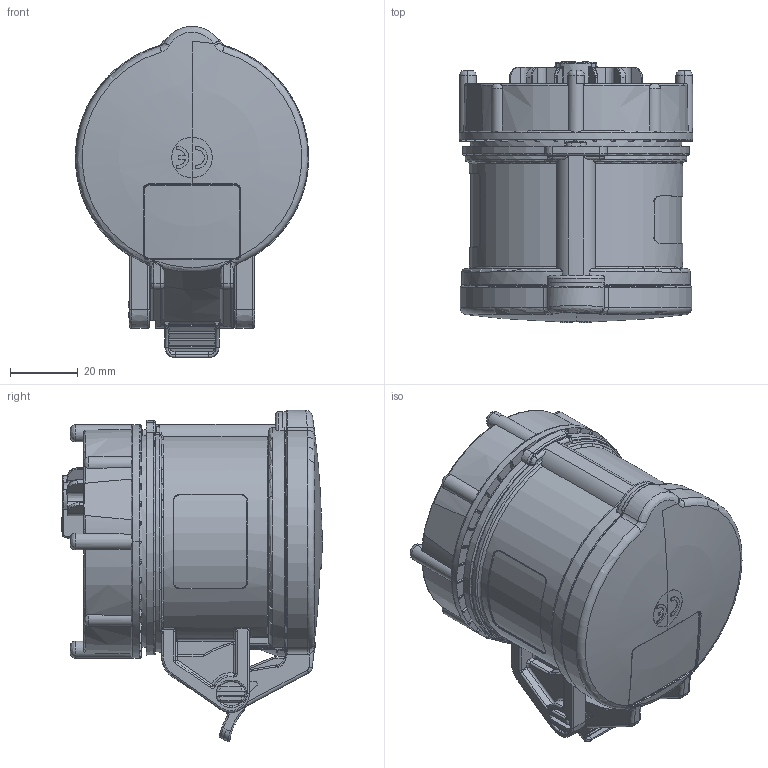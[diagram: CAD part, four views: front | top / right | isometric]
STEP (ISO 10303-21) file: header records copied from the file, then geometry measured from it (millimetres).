
FILE_DESCRIPTION((''),'2;1');
FILE_NAME('962_SW0001','2017-10-16T',('gisse'),('MENNEKES'),'PRO/ENGINEER BY PARAMETRIC TECHNOLOGY CORPORATION, 2015440','PRO/ENGINEER BY PARAMETRIC TECHNOLOGY CORPORATION, 2015440','');
FILE_SCHEMA(('AUTOMOTIVE_DESIGN { 1 0 10303 214 1 1 1 1 }'));
Length unit declared in the file: millimetre
Products named in the file (1): 962_SW0001
Bounding box: 69 x 77.4 x 97.99 mm (x, y, z)
Volume: 236683.7 mm3; surface area: 35667 mm2
Topology: 1 solids, 1 shells, 1788 faces, 4770 edges, 3019 vertices
Faces by surface type: plane 923, cylinder 338, torus 216, bspline 211, cone 77, sphere 20, extrusion 3
Entity records: 102778 total; most frequent: CARTESIAN_POINT 23770, ORIENTED_EDGE 9520, DIRECTION 8255, PRESENTATION_STYLE_ASSIGNMENT 6552, STYLED_ITEM 4764, CURVE_STYLE 4763, EDGE_CURVE 4760, FILL_AREA_STYLE_COLOUR 3577
